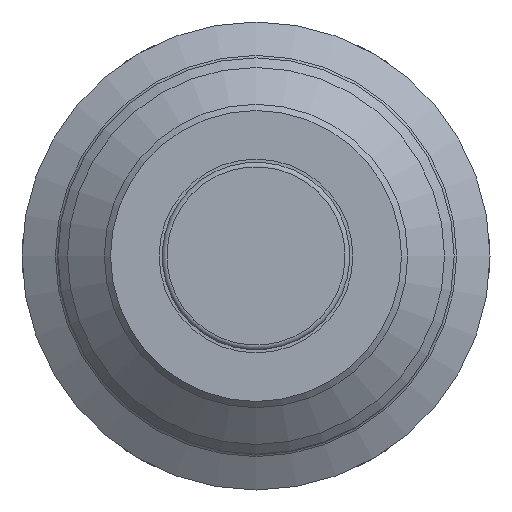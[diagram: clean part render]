
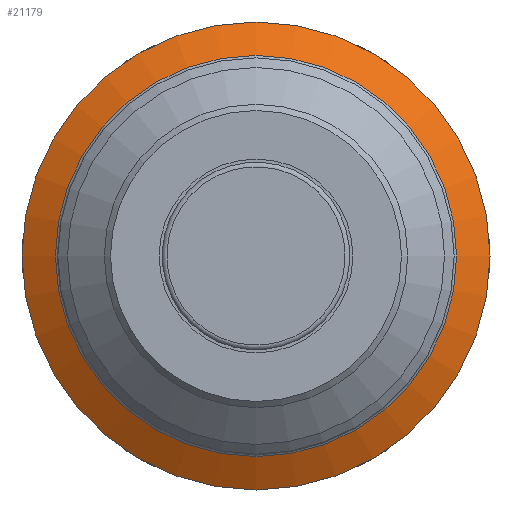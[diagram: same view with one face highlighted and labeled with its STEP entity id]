
A CAD part, front view. The second image highlights one B-rep face of the part: STEP entity #21179.
In plain terms, the highlighted conical face has half-angle 60 degrees and reference radius 17.45 mm.
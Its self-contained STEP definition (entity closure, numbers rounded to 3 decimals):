
#24=CONICAL_SURFACE('',#22046,17.45,1.047);
#3207=LINE('',#38721,#4356);
#4356=VECTOR('',#23661,17.45);
#6785=FACE_OUTER_BOUND('',#7941,.T.);
#7941=EDGE_LOOP('',(#17596,#17597,#17598,#17599,#17600));
#8575=CIRCLE('',#22023,18.9);
#8588=CIRCLE('',#22042,16.2);
#8589=CIRCLE('',#22043,16.2);
#9894=VERTEX_POINT('',#38677);
#9906=VERTEX_POINT('',#38711);
#9907=VERTEX_POINT('',#38713);
#12601=EDGE_CURVE('',#9894,#9894,#8575,.T.);
#12617=EDGE_CURVE('',#9906,#9907,#8588,.T.);
#12618=EDGE_CURVE('',#9907,#9906,#8589,.T.);
#12621=EDGE_CURVE('',#9894,#9907,#3207,.T.);
#17596=ORIENTED_EDGE('',*,*,#12601,.F.);
#17597=ORIENTED_EDGE('',*,*,#12621,.T.);
#17598=ORIENTED_EDGE('',*,*,#12617,.F.);
#17599=ORIENTED_EDGE('',*,*,#12618,.F.);
#17600=ORIENTED_EDGE('',*,*,#12621,.F.);
#21179=ADVANCED_FACE('',(#6785),#24,.T.);
#22023=AXIS2_PLACEMENT_3D('',#38679,#23609,#23610);
#22042=AXIS2_PLACEMENT_3D('',#38714,#23650,#23651);
#22043=AXIS2_PLACEMENT_3D('',#38715,#23652,#23653);
#22046=AXIS2_PLACEMENT_3D('',#38720,#23659,#23660);
#23609=DIRECTION('center_axis',(0.,1.,0.));
#23610=DIRECTION('ref_axis',(1.,0.,0.));
#23650=DIRECTION('center_axis',(0.,-1.,0.));
#23651=DIRECTION('ref_axis',(1.,0.,0.));
#23652=DIRECTION('center_axis',(0.,-1.,0.));
#23653=DIRECTION('ref_axis',(1.,0.,0.));
#23659=DIRECTION('center_axis',(0.,1.,0.));
#23660=DIRECTION('ref_axis',(-1.,0.,0.));
#23661=DIRECTION('',(-0.866,-0.5,0.));
#38677=CARTESIAN_POINT('',(18.9,-0.326,0.));
#38679=CARTESIAN_POINT('Origin',(0.,-0.326,0.));
#38711=CARTESIAN_POINT('',(0.,-1.885,-16.2));
#38713=CARTESIAN_POINT('',(16.2,-1.885,0.));
#38714=CARTESIAN_POINT('Origin',(0.,-1.885,0.));
#38715=CARTESIAN_POINT('Origin',(0.,-1.885,0.));
#38720=CARTESIAN_POINT('Origin',(0.,-1.163,0.));
#38721=CARTESIAN_POINT('',(17.45,-1.163,0.));
